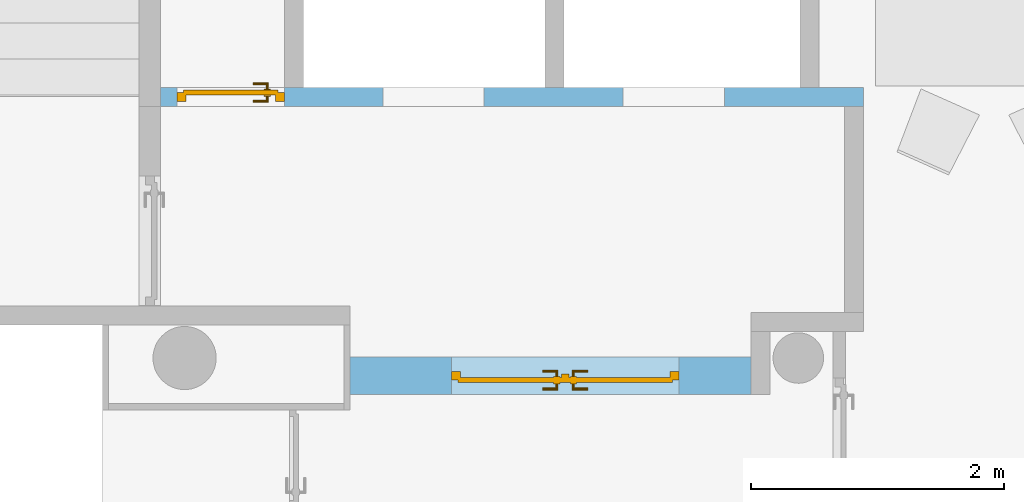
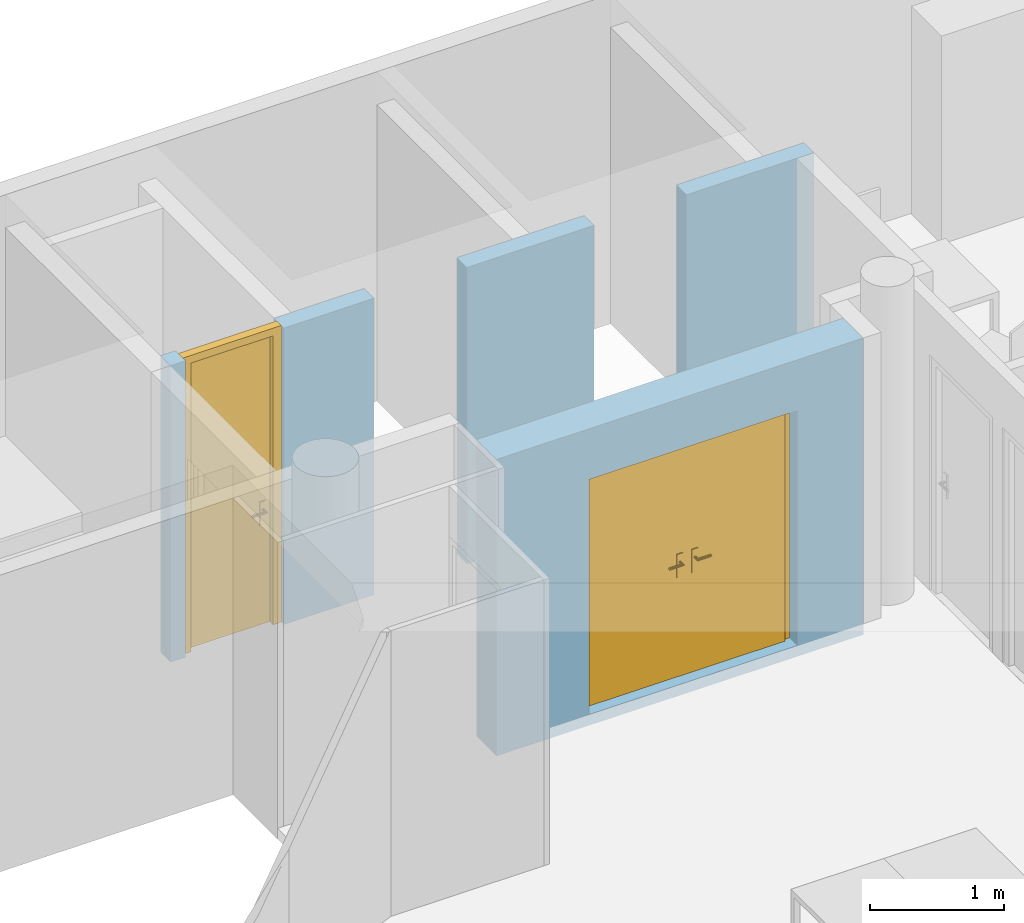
"""IFC4 building model written with IfcOpenShell, lengths in metres."""

from ifc_helpers import new_model, entity, si_unit, converted_unit, derived_unit, frame, frame_2d, origin, origin_with_axes, place, context, subcontext, project, spatial, polyline, rectangle, outline, extrude, faceted_brep, source, transform, mapped, material, layer, layer_set, layer_usage, element, fill, save


model = new_model("IFC4")

# Units and contexts
model_context = context("Model", 3, precision=1e-05, world=origin())
body_context = subcontext(model_context, "Body", "Model", "MODEL_VIEW")
ifc_project = project(units=[si_unit("LENGTHUNIT", "METRE"), si_unit("AREAUNIT", "SQUARE_METRE"), si_unit("VOLUMEUNIT", "CUBIC_METRE"), si_unit("MASSUNIT", "GRAM", prefix="KILO"), converted_unit("PLANEANGLEUNIT", "DEGREE", entity("IfcPlaneAngleMeasure", 0.0174532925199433), si_unit("PLANEANGLEUNIT", "RADIAN"), dimensions=[0, 0, 0, 0, 0, 0, 0]), derived_unit("THERMALTRANSMITTANCEUNIT", [(si_unit("POWERUNIT", "WATT"), 1), (si_unit("THERMODYNAMICTEMPERATUREUNIT", "KELVIN"), -1), (si_unit("LENGTHUNIT", "METRE"), -2)]), derived_unit("VOLUMETRICFLOWRATEUNIT", [(si_unit("LENGTHUNIT", "METRE"), 3), (converted_unit("TIMEUNIT", "hour", entity("IfcTimeMeasure", 3600.0), si_unit("TIMEUNIT", "SECOND"), dimensions=[0, 0, 1, 0, 0, 0, 0]), -1), (si_unit("LENGTHUNIT", "METRE"), -1)])], contexts=[model_context])

# Building, storeys
building_placement = place(None, origin())
building = spatial("IfcBuilding", under=ifc_project, at=building_placement, Name="HABITATGE PLURIFAMILIAR", CompositionType="ELEMENT")
storey_1_placement = place(building_placement, frame((0.0, 0.0, 12.27)))
storey_1 = spatial("IfcBuildingStorey", under=building, at=storey_1_placement, Name="PLANTA TERCERA", CompositionType="ELEMENT", Elevation=12.27)
storey_2_placement = place(storey_1_placement, frame((0.0, 0.0, 9.26)))
storey_2 = spatial("IfcBuildingStorey", under=storey_1, at=storey_2_placement, Name="NOU", CompositionType="PARTIAL")

# Wall, opening, door
ifc_material_1 = material()
ifc_layer_1 = layer(ifc_material_1, 0.3)
ifc_layer_set_1 = layer_set([ifc_layer_1])
ifc_layer_usage_1 = layer_usage(ifc_layer_set_1, "AXIS2", "POSITIVE", 0.0)
wall_1_placement = place(storey_2_placement, frame((420.618384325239, 23.9094598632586, -9.36), z_axis=(0.0, 0.0, 1.0), x_axis=(-1.0, 0.0, 0.0)))
wall_1 = element("IfcWall", 1, at=wall_1_placement, inside=storey_2, material=ifc_layer_usage_1, Name="Evans P3", context=body_context, shape_type="SweptSolid", body=[
    extrude(rectangle(XDim=3.17139954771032, YDim=0.3, at=frame_2d((1.58569977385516, 0.15), x_axis=(1.0, 0.0))), origin_with_axes(), (0.0, 0.0, 1.0), 2.71),
])
opening_1_placement = place(wall_1_placement, frame((2.37049657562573, 0.3, 0.1), z_axis=(0.0, -1.0, 0.0), x_axis=(0.0, 0.0, 1.0)))
opening_1 = element("IfcOpeningElement", 2, at=opening_1_placement, cuts=wall_1, Name="Vano porta P3", ObjectType="Opening", context=body_context, shape_type="SweptSolid", body=[
    extrude(outline(polyline([(2.15, 1.79909700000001), (2.15, 0.0), (0.0, 0.0), (0.0, 1.79909700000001), (2.15, 1.79909700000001)])), origin_with_axes(), (0.0, 0.0, 1.0), 0.3),
])
shared_shape_1 = source(origin_with_axes(), body_context, "Body", "Brep", [
    faceted_brep([(1.79909700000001, 0.07, 2.15), (1.72909700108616, 0.07, 2.15), (1.72909700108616, 0.07, 0.0), (1.79909700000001, 0.07, 0.0), (1.79909700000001, 0.0, 0.0), (1.72909700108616, 0.0, 0.0), (1.72909700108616, 0.0, 2.15), (1.79909700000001, 0.0, 2.15)], [[[0, 1, 2, 3]], [[4, 5, 6, 7]], [[3, 4, 7, 0]], [[2, 5, 4, 3]], [[1, 6, 5, 2]], [[0, 7, 6, 1]]], orient=[[False], [False], [False], [False], [False], [False]]),
    faceted_brep([(0.069999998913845, 0.07, 2.15), (0.0, 0.07, 2.15), (0.0, 0.07, 0.0), (0.069999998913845, 0.07, 0.0), (0.069999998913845, 0.0, 0.0), (0.0, 0.0, 0.0), (0.0, 0.0, 2.15), (0.069999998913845, 0.0, 2.15)], [[[0, 1, 2, 3]], [[4, 5, 6, 7]], [[3, 4, 7, 0]], [[2, 5, 4, 3]], [[1, 6, 5, 2]], [[0, 7, 6, 1]]], orient=[[False], [False], [False], [False], [False], [False]]),
    faceted_brep([(1.72909700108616, 0.07, 2.15), (0.069999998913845, 0.07, 2.15), (0.069999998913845, 0.07, 2.08), (1.72909700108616, 0.07, 2.08), (1.72909700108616, 0.0, 2.08), (0.069999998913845, 0.0, 2.08), (0.069999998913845, 0.0, 2.15), (1.72909700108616, 0.0, 2.15)], [[[0, 1, 2, 3]], [[4, 5, 6, 7]], [[3, 4, 7, 0]], [[2, 5, 4, 3]], [[1, 6, 5, 2]], [[0, 7, 6, 1]]], orient=[[False], [False], [False], [False], [False], [False]]),
    faceted_brep([(1.74909700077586, 0.09, 2.1), (0.900048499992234, 0.09, 2.1), (0.900048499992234, 0.09, 0.0), (1.74909700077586, 0.09, 0.0), (1.74909700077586, 0.05, 0.0), (0.900048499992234, 0.05, 0.0), (0.900048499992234, 0.05, 2.1), (1.74909700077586, 0.05, 2.1)], [[[0, 1, 2, 3]], [[4, 5, 6, 7]], [[3, 4, 7, 0]], [[2, 5, 4, 3]], [[1, 6, 5, 2]], [[0, 7, 6, 1]]], orient=[[False], [False], [False], [False], [False], [False]]),
    faceted_brep([(0.930048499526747, 0.05, 2.08), (0.87004850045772, 0.05, 2.08), (0.87004850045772, 0.05, 0.0), (0.930048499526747, 0.05, 0.0), (0.930048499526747, 0.02, 0.0), (0.87004850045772, 0.02, 0.0), (0.87004850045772, 0.02, 2.08), (0.930048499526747, 0.02, 2.08)], [[[0, 1, 2, 3]], [[4, 5, 6, 7]], [[3, 4, 7, 0]], [[2, 5, 4, 3]], [[1, 6, 5, 2]], [[0, 7, 6, 1]]], orient=[[False], [False], [False], [False], [False], [False]]),
    faceted_brep([(0.990048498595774, 0.05, 1.125), (0.940048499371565, 0.05, 1.125), (0.940048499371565, 0.05, 0.91), (0.990048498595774, 0.05, 0.91), (0.990048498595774, 0.04, 0.91), (0.940048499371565, 0.04, 0.91), (0.940048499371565, 0.04, 1.125), (0.990048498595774, 0.04, 1.125)], [[[0, 1, 2, 3]], [[4, 5, 6, 7]], [[3, 4, 7, 0]], [[2, 5, 4, 3]], [[1, 6, 5, 2]], [[0, 7, 6, 1]]], orient=[[False], [False], [False], [False], [False], [False]]),
    faceted_brep([(0.96504849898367, 0.04, 1.06), (0.96004849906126, 0.04, 1.05866025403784), (0.95638824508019, 0.04, 1.055), (0.955048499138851, 0.04, 1.05), (0.95638824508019, 0.04, 1.045), (0.96004849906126, 0.04, 1.04133974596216), (0.96504849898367, 0.04, 1.04), (0.970048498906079, 0.04, 1.04133974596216), (0.973708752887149, 0.04, 1.045), (0.975048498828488, 0.04, 1.05), (0.973708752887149, 0.04, 1.055), (0.970048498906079, 0.04, 1.05866025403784), (0.96504849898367, 0.0, 1.06), (0.96004849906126, -0.005, 1.05866025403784), (0.95638824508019, -0.00866025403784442, 1.055), (0.955048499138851, -0.01, 1.05), (0.95638824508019, -0.00866025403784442, 1.045), (0.96004849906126, -0.005, 1.04133974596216), (0.96504849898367, 0.0, 1.04), (0.970048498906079, 0.005, 1.04133974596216), (0.973708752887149, 0.00866025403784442, 1.045), (0.975048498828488, 0.01, 1.05), (0.973708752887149, 0.00866025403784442, 1.055), (0.970048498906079, 0.005, 1.05866025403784), (1.08004849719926, 0.0, 1.06), (1.08004849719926, 0.005, 1.05866025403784), (1.08004849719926, 0.00866025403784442, 1.055), (1.08004849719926, 0.01, 1.05), (1.08004849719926, 0.00866025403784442, 1.045), (1.08004849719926, 0.005, 1.04133974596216), (1.08004849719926, 0.0, 1.04), (1.08004849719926, -0.005, 1.04133974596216), (1.08004849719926, -0.00866025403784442, 1.045), (1.08004849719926, -0.01, 1.05), (1.08004849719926, -0.00866025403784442, 1.055), (1.08004849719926, -0.005, 1.05866025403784)], [[[0, 1, 2, 3, 4, 5, 6, 7, 8, 9, 10, 11]], [[0, 12, 13, 1]], [[1, 13, 14, 2]], [[2, 14, 15, 3]], [[3, 15, 16, 4]], [[4, 16, 17, 5]], [[5, 17, 18, 6]], [[6, 18, 19, 7]], [[7, 19, 20, 8]], [[8, 20, 21, 9]], [[9, 21, 22, 10]], [[10, 22, 23, 11]], [[11, 23, 12, 0]], [[24, 25, 26, 27, 28, 29, 30, 31, 32, 33, 34, 35]], [[12, 24, 35, 13]], [[13, 35, 34, 14]], [[14, 34, 33, 15]], [[15, 33, 32, 16]], [[16, 32, 31, 17]], [[17, 31, 30, 18]], [[18, 30, 29, 19]], [[19, 29, 28, 20]], [[20, 28, 27, 21]], [[21, 27, 26, 22]], [[22, 26, 25, 23]], [[23, 25, 24, 12]]], orient=[[False], [False], [False], [False], [False], [False], [False], [False], [False], [False], [False], [False], [False], [False], [False], [False], [False], [False], [False], [False], [False], [False], [False], [False], [False], [False]]),
    faceted_brep([(0.990048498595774, 0.09, 1.125), (0.990048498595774, 0.09, 0.91), (0.940048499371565, 0.09, 0.91), (0.940048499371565, 0.09, 1.125), (0.990048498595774, 0.1, 0.91), (0.990048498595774, 0.1, 1.125), (0.940048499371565, 0.1, 1.125), (0.940048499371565, 0.1, 0.91)], [[[0, 1, 2, 3]], [[4, 5, 6, 7]], [[1, 0, 5, 4]], [[2, 1, 4, 7]], [[3, 2, 7, 6]], [[0, 3, 6, 5]]], orient=[[False], [False], [False], [False], [False], [False]]),
    faceted_brep([(0.96504849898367, 0.1, 1.06), (0.970048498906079, 0.1, 1.05866025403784), (0.973708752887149, 0.1, 1.055), (0.975048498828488, 0.1, 1.05), (0.973708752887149, 0.1, 1.045), (0.970048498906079, 0.1, 1.04133974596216), (0.96504849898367, 0.1, 1.04), (0.96004849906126, 0.1, 1.04133974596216), (0.95638824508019, 0.1, 1.045), (0.955048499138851, 0.1, 1.05), (0.95638824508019, 0.1, 1.055), (0.96004849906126, 0.1, 1.05866025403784), (0.96004849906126, 0.145, 1.05866025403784), (0.96504849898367, 0.14, 1.06), (0.95638824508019, 0.148660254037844, 1.055), (0.955048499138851, 0.15, 1.05), (0.95638824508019, 0.148660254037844, 1.045), (0.96004849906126, 0.145, 1.04133974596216), (0.96504849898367, 0.14, 1.04), (0.970048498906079, 0.135, 1.04133974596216), (0.973708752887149, 0.131339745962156, 1.045), (0.975048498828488, 0.13, 1.05), (0.973708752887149, 0.131339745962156, 1.055), (0.970048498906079, 0.135, 1.05866025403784), (1.08004849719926, 0.14, 1.06), (1.08004849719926, 0.145, 1.05866025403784), (1.08004849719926, 0.148660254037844, 1.055), (1.08004849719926, 0.15, 1.05), (1.08004849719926, 0.148660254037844, 1.045), (1.08004849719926, 0.145, 1.04133974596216), (1.08004849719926, 0.14, 1.04), (1.08004849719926, 0.135, 1.04133974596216), (1.08004849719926, 0.131339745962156, 1.045), (1.08004849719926, 0.13, 1.05), (1.08004849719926, 0.131339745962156, 1.055), (1.08004849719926, 0.135, 1.05866025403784)], [[[0, 1, 2, 3, 4, 5, 6, 7, 8, 9, 10, 11]], [[0, 11, 12, 13]], [[11, 10, 14, 12]], [[10, 9, 15, 14]], [[9, 8, 16, 15]], [[8, 7, 17, 16]], [[7, 6, 18, 17]], [[6, 5, 19, 18]], [[5, 4, 20, 19]], [[4, 3, 21, 20]], [[3, 2, 22, 21]], [[2, 1, 23, 22]], [[1, 0, 13, 23]], [[24, 25, 26, 27, 28, 29, 30, 31, 32, 33, 34, 35]], [[13, 12, 25, 24]], [[12, 14, 26, 25]], [[14, 15, 27, 26]], [[15, 16, 28, 27]], [[16, 17, 29, 28]], [[17, 18, 30, 29]], [[18, 19, 31, 30]], [[19, 20, 32, 31]], [[20, 21, 33, 32]], [[21, 22, 34, 33]], [[22, 23, 35, 34]], [[23, 13, 24, 35]]], orient=[[False], [False], [False], [False], [False], [False], [False], [False], [False], [False], [False], [False], [False], [False], [False], [False], [False], [False], [False], [False], [False], [False], [False], [False], [False], [False]]),
    faceted_brep([(0.899048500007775, 0.09, 2.1), (0.0499999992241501, 0.09, 2.1), (0.0499999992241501, 0.09, 0.0), (0.899048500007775, 0.09, 0.0), (0.899048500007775, 0.05, 0.0), (0.0499999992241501, 0.05, 0.0), (0.0499999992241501, 0.05, 2.1), (0.899048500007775, 0.05, 2.1)], [[[0, 1, 2, 3]], [[4, 5, 6, 7]], [[3, 4, 7, 0]], [[2, 5, 4, 3]], [[1, 6, 5, 2]], [[0, 7, 6, 1]]], orient=[[False], [False], [False], [False], [False], [False]]),
    faceted_brep([(0.859048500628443, 0.05, 1.125), (0.809048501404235, 0.05, 1.125), (0.809048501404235, 0.05, 0.91), (0.859048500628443, 0.05, 0.91), (0.859048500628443, 0.04, 0.91), (0.809048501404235, 0.04, 0.91), (0.809048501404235, 0.04, 1.125), (0.859048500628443, 0.04, 1.125)], [[[0, 1, 2, 3]], [[4, 5, 6, 7]], [[3, 4, 7, 0]], [[2, 5, 4, 3]], [[1, 6, 5, 2]], [[0, 7, 6, 1]]], orient=[[False], [False], [False], [False], [False], [False]]),
    faceted_brep([(0.834048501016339, 0.04, 1.06), (0.82904850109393, 0.04, 1.05866025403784), (0.82538824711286, 0.04, 1.055), (0.824048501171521, 0.04, 1.05), (0.82538824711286, 0.04, 1.045), (0.82904850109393, 0.04, 1.04133974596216), (0.834048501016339, 0.04, 1.04), (0.839048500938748, 0.04, 1.04133974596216), (0.842708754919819, 0.04, 1.045), (0.844048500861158, 0.04, 1.05), (0.842708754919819, 0.04, 1.055), (0.839048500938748, 0.04, 1.05866025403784), (0.839048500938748, -0.005, 1.05866025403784), (0.834048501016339, 0.0, 1.06), (0.842708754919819, -0.00866025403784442, 1.055), (0.844048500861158, -0.01, 1.05), (0.842708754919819, -0.00866025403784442, 1.045), (0.839048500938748, -0.005, 1.04133974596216), (0.834048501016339, 0.0, 1.04), (0.82904850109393, 0.005, 1.04133974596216), (0.82538824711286, 0.00866025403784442, 1.045), (0.824048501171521, 0.01, 1.05), (0.82538824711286, 0.00866025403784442, 1.055), (0.82904850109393, 0.005, 1.05866025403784), (0.719048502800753, 0.0, 1.06), (0.719048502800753, -0.005, 1.05866025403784), (0.719048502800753, -0.00866025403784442, 1.055), (0.719048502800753, -0.01, 1.05), (0.719048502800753, -0.00866025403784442, 1.045), (0.719048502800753, -0.005, 1.04133974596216), (0.719048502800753, 0.0, 1.04), (0.719048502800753, 0.005, 1.04133974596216), (0.719048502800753, 0.00866025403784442, 1.045), (0.719048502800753, 0.01, 1.05), (0.719048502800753, 0.00866025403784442, 1.055), (0.719048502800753, 0.005, 1.05866025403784)], [[[0, 1, 2, 3, 4, 5, 6, 7, 8, 9, 10, 11]], [[0, 11, 12, 13]], [[11, 10, 14, 12]], [[10, 9, 15, 14]], [[9, 8, 16, 15]], [[8, 7, 17, 16]], [[7, 6, 18, 17]], [[6, 5, 19, 18]], [[5, 4, 20, 19]], [[4, 3, 21, 20]], [[3, 2, 22, 21]], [[2, 1, 23, 22]], [[1, 0, 13, 23]], [[24, 25, 26, 27, 28, 29, 30, 31, 32, 33, 34, 35]], [[13, 12, 25, 24]], [[12, 14, 26, 25]], [[14, 15, 27, 26]], [[15, 16, 28, 27]], [[16, 17, 29, 28]], [[17, 18, 30, 29]], [[18, 19, 31, 30]], [[19, 20, 32, 31]], [[20, 21, 33, 32]], [[21, 22, 34, 33]], [[22, 23, 35, 34]], [[23, 13, 24, 35]]], orient=[[False], [False], [False], [False], [False], [False], [False], [False], [False], [False], [False], [False], [False], [False], [False], [False], [False], [False], [False], [False], [False], [False], [False], [False], [False], [False]]),
    faceted_brep([(0.859048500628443, 0.09, 1.125), (0.859048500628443, 0.09, 0.91), (0.809048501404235, 0.09, 0.91), (0.809048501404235, 0.09, 1.125), (0.859048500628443, 0.1, 0.91), (0.859048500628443, 0.1, 1.125), (0.809048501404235, 0.1, 1.125), (0.809048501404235, 0.1, 0.91)], [[[0, 1, 2, 3]], [[4, 5, 6, 7]], [[1, 0, 5, 4]], [[2, 1, 4, 7]], [[3, 2, 7, 6]], [[0, 3, 6, 5]]], orient=[[False], [False], [False], [False], [False], [False]]),
    faceted_brep([(0.834048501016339, 0.1, 1.06), (0.839048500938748, 0.1, 1.05866025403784), (0.842708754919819, 0.1, 1.055), (0.844048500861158, 0.1, 1.05), (0.842708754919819, 0.1, 1.045), (0.839048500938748, 0.1, 1.04133974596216), (0.834048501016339, 0.1, 1.04), (0.82904850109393, 0.1, 1.04133974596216), (0.82538824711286, 0.1, 1.045), (0.824048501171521, 0.1, 1.05), (0.82538824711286, 0.1, 1.055), (0.82904850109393, 0.1, 1.05866025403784), (0.834048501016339, 0.14, 1.06), (0.839048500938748, 0.145, 1.05866025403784), (0.842708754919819, 0.148660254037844, 1.055), (0.844048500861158, 0.15, 1.05), (0.842708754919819, 0.148660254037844, 1.045), (0.839048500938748, 0.145, 1.04133974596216), (0.834048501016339, 0.14, 1.04), (0.82904850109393, 0.135, 1.04133974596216), (0.82538824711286, 0.131339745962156, 1.045), (0.824048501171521, 0.13, 1.05), (0.82538824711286, 0.131339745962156, 1.055), (0.82904850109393, 0.135, 1.05866025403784), (0.719048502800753, 0.14, 1.06), (0.719048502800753, 0.135, 1.05866025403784), (0.719048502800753, 0.131339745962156, 1.055), (0.719048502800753, 0.13, 1.05), (0.719048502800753, 0.131339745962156, 1.045), (0.719048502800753, 0.135, 1.04133974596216), (0.719048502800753, 0.14, 1.04), (0.719048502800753, 0.145, 1.04133974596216), (0.719048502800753, 0.148660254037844, 1.045), (0.719048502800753, 0.15, 1.05), (0.719048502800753, 0.148660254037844, 1.055), (0.719048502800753, 0.145, 1.05866025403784)], [[[0, 1, 2, 3, 4, 5, 6, 7, 8, 9, 10, 11]], [[0, 12, 13, 1]], [[1, 13, 14, 2]], [[2, 14, 15, 3]], [[3, 15, 16, 4]], [[4, 16, 17, 5]], [[5, 17, 18, 6]], [[6, 18, 19, 7]], [[7, 19, 20, 8]], [[8, 20, 21, 9]], [[9, 21, 22, 10]], [[10, 22, 23, 11]], [[11, 23, 12, 0]], [[24, 25, 26, 27, 28, 29, 30, 31, 32, 33, 34, 35]], [[12, 24, 35, 13]], [[13, 35, 34, 14]], [[14, 34, 33, 15]], [[15, 33, 32, 16]], [[16, 32, 31, 17]], [[17, 31, 30, 18]], [[18, 30, 29, 19]], [[19, 29, 28, 20]], [[20, 28, 27, 21]], [[21, 27, 26, 22]], [[22, 26, 25, 23]], [[23, 25, 24, 12]]], orient=[[False], [False], [False], [False], [False], [False], [False], [False], [False], [False], [False], [False], [False], [False], [False], [False], [False], [False], [False], [False], [False], [False], [False], [False], [False], [False]]),
])
door_1_placement = place(opening_1_placement, frame((0.0, 1.79909700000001, 0.185), z_axis=(1.0, 0.0, 0.0), x_axis=(0.0, -1.0, 0.0)))
door_1 = element("IfcDoor", 3, at=door_1_placement, inside=storey_2, Name="Porta P3", OperationType="USERDEFINED", OverallHeight=2.15, OverallWidth=1.7991, PredefinedType="DOOR", context=body_context, shape_type="MappedRepresentation", body=[
    mapped(shared_shape_1, transform((0.0, 0.0, 0.0), x_axis=(1.0, 0.0, 0.0), y_axis=(0.0, 1.0, 0.0), z_axis=(0.0, 0.0, 1.0), scale=1.0)),
])
fill(opening_1, door_1)

# Wall, openings, door
ifc_material_2 = material()
ifc_layer_2 = layer(ifc_material_2, 0.15)
ifc_layer_set_2 = layer_set([ifc_layer_2])
ifc_layer_usage_2 = layer_usage(ifc_layer_set_2, "AXIS2", "POSITIVE", 0.0)
wall_2_placement = place(storey_2_placement, frame((415.946984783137, 25.8894598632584, -9.36)))
wall_2 = element("IfcWall", 4, at=wall_2_placement, inside=storey_2, material=ifc_layer_usage_2, Name="Evans P3", context=body_context, shape_type="SweptSolid", body=[
    extrude(rectangle(XDim=5.55999999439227, YDim=0.15, at=frame_2d((2.77999999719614, 0.075), x_axis=(1.0, 0.0))), origin_with_axes(), (0.0, 0.0, 1.0), 2.71),
])
opening_2_placement = place(wall_2_placement, frame((3.65999999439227, 0.0, 0.0), z_axis=(0.0, 1.0, 0.0), x_axis=(0.0, 0.0, 1.0)))
element("IfcOpeningElement", 5, at=opening_2_placement, cuts=wall_2, Name="Vano porta P3", ObjectType="Opening", context=body_context, shape_type="SweptSolid", body=[
    extrude(outline(polyline([(2.71, 0.8), (2.71, 0.0), (0.0, 0.0), (0.0, 0.8), (2.71, 0.8)])), origin_with_axes(), (0.0, 0.0, 1.0), 0.15),
])
opening_3_placement = place(wall_2_placement, frame((1.75999999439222, 0.0, 0.0), z_axis=(0.0, 1.0, 0.0), x_axis=(0.0, 0.0, 1.0)))
element("IfcOpeningElement", 6, at=opening_3_placement, cuts=wall_2, Name="Vano porta P3", ObjectType="Opening", context=body_context, shape_type="SweptSolid", body=[
    extrude(outline(polyline([(2.71, 0.800000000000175), (2.71, 0.0), (0.0, 0.0), (0.0, 0.800000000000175), (2.71, 0.800000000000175)])), origin_with_axes(), (0.0, 0.0, 1.0), 0.15),
])
opening_4_placement = place(wall_2_placement, frame((0.129999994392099, 0.0, 0.0), z_axis=(0.0, 1.0, 0.0), x_axis=(0.0, 0.0, 1.0)))
opening_4 = element("IfcOpeningElement", 7, at=opening_4_placement, cuts=wall_2, Name="Vano porta P3", ObjectType="Opening", context=body_context, shape_type="SweptSolid", body=[
    extrude(outline(polyline([(2.71, 0.850000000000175), (2.71, 0.0), (0.0, 0.0), (0.0, 0.850000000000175), (2.71, 0.850000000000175)])), origin_with_axes(), (0.0, 0.0, 1.0), 0.15),
])
shared_shape_2 = source(origin_with_axes(), body_context, "Body", "Brep", [
    faceted_brep([(0.850000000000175, 0.07, 2.71), (0.780000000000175, 0.07, 2.71), (0.780000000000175, 0.07, 0.0), (0.850000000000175, 0.07, 0.0), (0.850000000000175, 0.0, 0.0), (0.780000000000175, 0.0, 0.0), (0.780000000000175, 0.0, 2.71), (0.850000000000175, 0.0, 2.71)], [[[0, 1, 2, 3]], [[4, 5, 6, 7]], [[3, 4, 7, 0]], [[2, 5, 4, 3]], [[1, 6, 5, 2]], [[0, 7, 6, 1]]], orient=[[False], [False], [False], [False], [False], [False]]),
    faceted_brep([(0.07, 0.07, 2.71), (0.0, 0.07, 2.71), (0.0, 0.07, 0.0), (0.07, 0.07, 0.0), (0.07, 0.0, 0.0), (0.0, 0.0, 0.0), (0.0, 0.0, 2.71), (0.07, 0.0, 2.71)], [[[0, 1, 2, 3]], [[4, 5, 6, 7]], [[3, 4, 7, 0]], [[2, 5, 4, 3]], [[1, 6, 5, 2]], [[0, 7, 6, 1]]], orient=[[False], [False], [False], [False], [False], [False]]),
    faceted_brep([(0.780000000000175, 0.07, 2.71), (0.07, 0.07, 2.71), (0.07, 0.07, 2.64), (0.780000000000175, 0.07, 2.64), (0.780000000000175, 0.0, 2.64), (0.07, 0.0, 2.64), (0.07, 0.0, 2.71), (0.780000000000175, 0.0, 2.71)], [[[0, 1, 2, 3]], [[4, 5, 6, 7]], [[3, 4, 7, 0]], [[2, 5, 4, 3]], [[1, 6, 5, 2]], [[0, 7, 6, 1]]], orient=[[False], [False], [False], [False], [False], [False]]),
    faceted_brep([(0.800000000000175, 0.09, 2.66), (0.05, 0.09, 2.66), (0.05, 0.09, 0.0), (0.800000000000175, 0.09, 0.0), (0.800000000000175, 0.05, 0.0), (0.05, 0.05, 0.0), (0.05, 0.05, 2.66), (0.800000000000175, 0.05, 2.66)], [[[0, 1, 2, 3]], [[4, 5, 6, 7]], [[3, 4, 7, 0]], [[2, 5, 4, 3]], [[1, 6, 5, 2]], [[0, 7, 6, 1]]], orient=[[False], [False], [False], [False], [False], [False]]),
    faceted_brep([(0.740000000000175, 0.05, 1.125), (0.690000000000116, 0.05, 1.125), (0.690000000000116, 0.05, 0.91), (0.740000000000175, 0.05, 0.91), (0.740000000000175, 0.04, 0.91), (0.690000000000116, 0.04, 0.91), (0.690000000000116, 0.04, 1.125), (0.740000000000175, 0.04, 1.125)], [[[0, 1, 2, 3]], [[4, 5, 6, 7]], [[3, 4, 7, 0]], [[2, 5, 4, 3]], [[1, 6, 5, 2]], [[0, 7, 6, 1]]], orient=[[False], [False], [False], [False], [False], [False]]),
    faceted_brep([(0.715000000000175, 0.04, 1.06), (0.710000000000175, 0.04, 1.05866025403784), (0.706339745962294, 0.04, 1.055), (0.705000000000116, 0.04, 1.05), (0.706339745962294, 0.04, 1.045), (0.710000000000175, 0.04, 1.04133974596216), (0.715000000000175, 0.04, 1.04), (0.720000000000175, 0.04, 1.04133974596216), (0.723660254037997, 0.04, 1.045), (0.725000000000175, 0.04, 1.05), (0.723660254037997, 0.04, 1.055), (0.720000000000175, 0.04, 1.05866025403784), (0.720000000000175, -0.005, 1.05866025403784), (0.715000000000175, 0.0, 1.06), (0.723660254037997, -0.00866025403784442, 1.055), (0.725000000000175, -0.01, 1.05), (0.723660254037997, -0.00866025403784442, 1.045), (0.720000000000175, -0.005, 1.04133974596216), (0.715000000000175, 0.0, 1.04), (0.710000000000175, 0.005, 1.04133974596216), (0.706339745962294, 0.00866025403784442, 1.045), (0.705000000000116, 0.01, 1.05), (0.706339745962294, 0.00866025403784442, 1.055), (0.710000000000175, 0.005, 1.05866025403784), (0.600000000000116, 0.0, 1.06), (0.600000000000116, -0.005, 1.05866025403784), (0.600000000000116, -0.00866025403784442, 1.055), (0.600000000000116, -0.01, 1.05), (0.600000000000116, -0.00866025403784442, 1.045), (0.600000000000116, -0.005, 1.04133974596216), (0.600000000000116, 0.0, 1.04), (0.600000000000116, 0.005, 1.04133974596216), (0.600000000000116, 0.00866025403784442, 1.045), (0.600000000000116, 0.01, 1.05), (0.600000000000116, 0.00866025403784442, 1.055), (0.600000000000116, 0.005, 1.05866025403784)], [[[0, 1, 2, 3, 4, 5, 6, 7, 8, 9, 10, 11]], [[0, 11, 12, 13]], [[11, 10, 14, 12]], [[10, 9, 15, 14]], [[9, 8, 16, 15]], [[8, 7, 17, 16]], [[7, 6, 18, 17]], [[6, 5, 19, 18]], [[5, 4, 20, 19]], [[4, 3, 21, 20]], [[3, 2, 22, 21]], [[2, 1, 23, 22]], [[1, 0, 13, 23]], [[24, 25, 26, 27, 28, 29, 30, 31, 32, 33, 34, 35]], [[13, 12, 25, 24]], [[12, 14, 26, 25]], [[14, 15, 27, 26]], [[15, 16, 28, 27]], [[16, 17, 29, 28]], [[17, 18, 30, 29]], [[18, 19, 31, 30]], [[19, 20, 32, 31]], [[20, 21, 33, 32]], [[21, 22, 34, 33]], [[22, 23, 35, 34]], [[23, 13, 24, 35]]], orient=[[False], [False], [False], [False], [False], [False], [False], [False], [False], [False], [False], [False], [False], [False], [False], [False], [False], [False], [False], [False], [False], [False], [False], [False], [False], [False]]),
    faceted_brep([(0.740000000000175, 0.09, 1.125), (0.740000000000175, 0.09, 0.91), (0.690000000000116, 0.09, 0.91), (0.690000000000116, 0.09, 1.125), (0.740000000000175, 0.1, 0.91), (0.740000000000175, 0.1, 1.125), (0.690000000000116, 0.1, 1.125), (0.690000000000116, 0.1, 0.91)], [[[0, 1, 2, 3]], [[4, 5, 6, 7]], [[1, 0, 5, 4]], [[2, 1, 4, 7]], [[3, 2, 7, 6]], [[0, 3, 6, 5]]], orient=[[False], [False], [False], [False], [False], [False]]),
    faceted_brep([(0.715000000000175, 0.1, 1.06), (0.720000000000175, 0.1, 1.05866025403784), (0.723660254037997, 0.1, 1.055), (0.725000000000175, 0.1, 1.05), (0.723660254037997, 0.1, 1.045), (0.720000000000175, 0.1, 1.04133974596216), (0.715000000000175, 0.1, 1.04), (0.710000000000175, 0.1, 1.04133974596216), (0.706339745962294, 0.1, 1.045), (0.705000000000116, 0.1, 1.05), (0.706339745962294, 0.1, 1.055), (0.710000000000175, 0.1, 1.05866025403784), (0.715000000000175, 0.14, 1.06), (0.720000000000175, 0.145, 1.05866025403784), (0.723660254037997, 0.148660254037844, 1.055), (0.725000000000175, 0.15, 1.05), (0.723660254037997, 0.148660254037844, 1.045), (0.720000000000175, 0.145, 1.04133974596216), (0.715000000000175, 0.14, 1.04), (0.710000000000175, 0.135, 1.04133974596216), (0.706339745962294, 0.131339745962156, 1.045), (0.705000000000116, 0.13, 1.05), (0.706339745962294, 0.131339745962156, 1.055), (0.710000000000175, 0.135, 1.05866025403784), (0.600000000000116, 0.14, 1.06), (0.600000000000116, 0.135, 1.05866025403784), (0.600000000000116, 0.131339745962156, 1.055), (0.600000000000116, 0.13, 1.05), (0.600000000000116, 0.131339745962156, 1.045), (0.600000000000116, 0.135, 1.04133974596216), (0.600000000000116, 0.14, 1.04), (0.600000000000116, 0.145, 1.04133974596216), (0.600000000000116, 0.148660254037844, 1.045), (0.600000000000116, 0.15, 1.05), (0.600000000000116, 0.148660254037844, 1.055), (0.600000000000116, 0.145, 1.05866025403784)], [[[0, 1, 2, 3, 4, 5, 6, 7, 8, 9, 10, 11]], [[0, 12, 13, 1]], [[1, 13, 14, 2]], [[2, 14, 15, 3]], [[3, 15, 16, 4]], [[4, 16, 17, 5]], [[5, 17, 18, 6]], [[6, 18, 19, 7]], [[7, 19, 20, 8]], [[8, 20, 21, 9]], [[9, 21, 22, 10]], [[10, 22, 23, 11]], [[11, 23, 12, 0]], [[24, 25, 26, 27, 28, 29, 30, 31, 32, 33, 34, 35]], [[12, 24, 35, 13]], [[13, 35, 34, 14]], [[14, 34, 33, 15]], [[15, 33, 32, 16]], [[16, 32, 31, 17]], [[17, 31, 30, 18]], [[18, 30, 29, 19]], [[19, 29, 28, 20]], [[20, 28, 27, 21]], [[21, 27, 26, 22]], [[22, 26, 25, 23]], [[23, 25, 24, 12]]], orient=[[False], [False], [False], [False], [False], [False], [False], [False], [False], [False], [False], [False], [False], [False], [False], [False], [False], [False], [False], [False], [False], [False], [False], [False], [False], [False]]),
])
door_2_placement = place(opening_4_placement, frame((0.0, 0.0, 0.04), z_axis=(1.0, 0.0, 0.0), x_axis=(0.0, 1.0, 0.0)))
door_2 = element("IfcDoor", 8, at=door_2_placement, inside=storey_2, Name="Porta P3", OperationType="USERDEFINED", OverallHeight=2.71, OverallWidth=0.85, PredefinedType="DOOR", context=body_context, shape_type="MappedRepresentation", body=[
    mapped(shared_shape_2, transform((0.0, 0.0, 0.0), x_axis=(1.0, 0.0, 0.0), y_axis=(0.0, 1.0, 0.0), z_axis=(0.0, 0.0, 1.0), scale=1.0)),
])
fill(opening_4, door_2)

save(model, "model.ifc")
